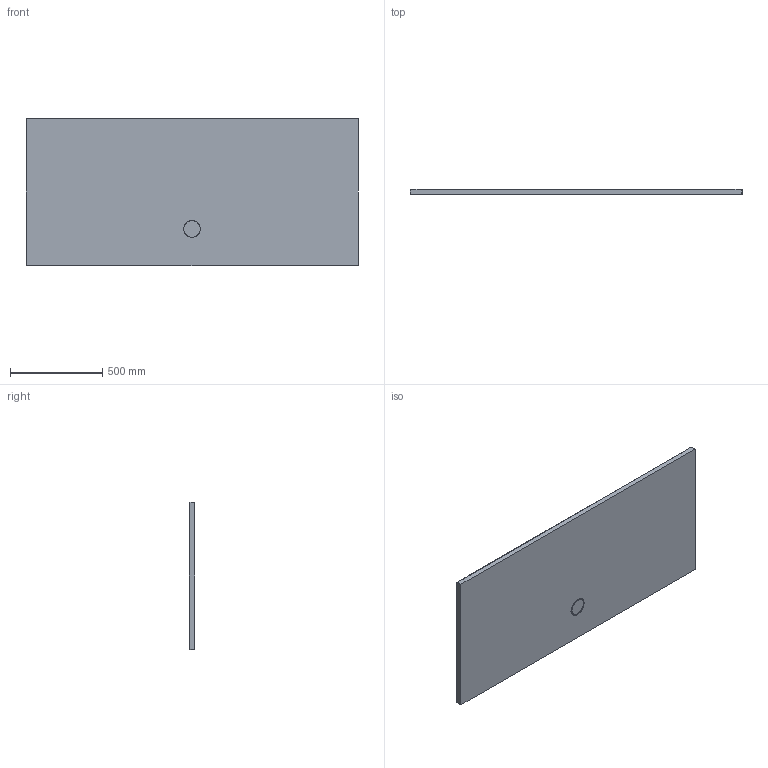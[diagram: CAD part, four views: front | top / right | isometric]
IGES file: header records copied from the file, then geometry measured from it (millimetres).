
Start section: SolidWorks IGES file using analytic representation for surfaces
Global section: file name: Y:\TKT\_PLIKI DLA ARCHITEKTÓW\02_AKRYL\BRODZIKI\seria SPACE MINERAL\IGS\B_M_80x180x1,5.IGS; native system: SolidWorks 2011; preprocessor: SolidWorks 2011; author: M.Szymanski; date: 180215.155925; units: millimetre
Bounding box: 1800 x 30 x 800 mm (x, y, z)
Surface area: 3048558.9 mm2 (no closed solid volume)
Topology: 0 solids, 0 shells, 61 faces, 739 edges, 736 vertices
Faces by surface type: bspline 39, revolution 22
